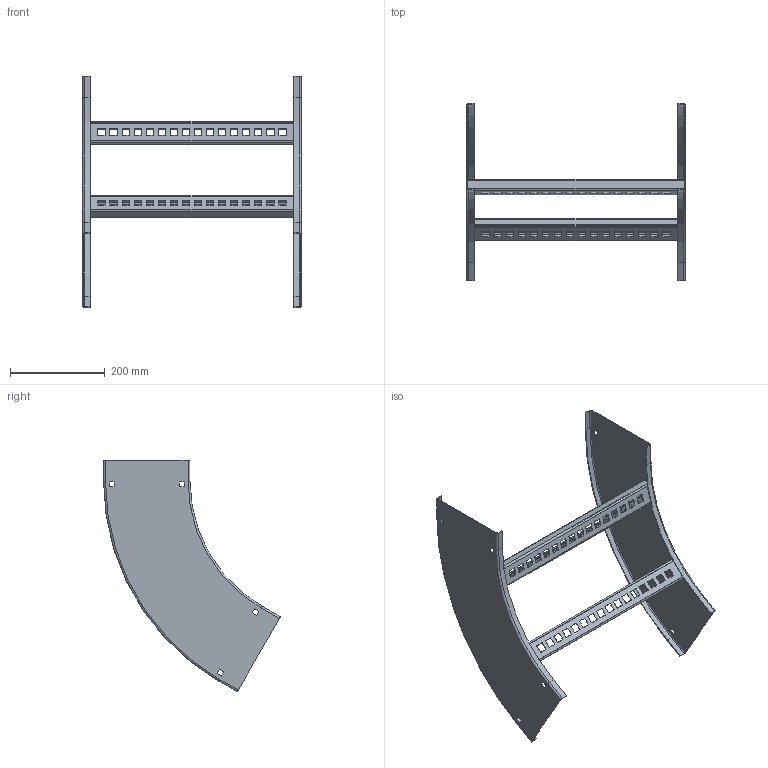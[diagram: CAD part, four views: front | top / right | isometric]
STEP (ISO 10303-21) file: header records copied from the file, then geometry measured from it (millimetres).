
FILE_DESCRIPTION((''),'2;1');
FILE_NAME('AUF718LVO6012_ASM','2010-02-01T',('erouzier'),(''),'PRO/ENGINEER BY PARAMETRIC TECHNOLOGY CORPORATION, 2008510','PRO/ENGINEER BY PARAMETRIC TECHNOLOGY CORPORATION, 2008510','');
FILE_SCHEMA(('CONFIG_CONTROL_DESIGN'));
Length unit declared in the file: inch
Products named in the file (3): CDS001419_7_60_12; CDS002159L18-P; AUF718LVO6012_ASM
Assembly tree (4 placements, depth 2):
  AUF718LVO6012_ASM
    CDS001419_7_60_12  x2
    CDS002159L18-P  x2
Bounding box: 461.31 x 373.32 x 488.62 mm (x, y, z)
Volume: 545963.6 mm3; surface area: 625163.7 mm2
Topology: 4 solids, 4 shells, 432 faces, 1208 edges, 784 vertices
Faces by surface type: plane 250, cylinder 174, torus 8
Entity records: 7120 total; most frequent: DIRECTION 1228, CARTESIAN_POINT 1219, ORIENTED_EDGE 1208, EDGE_CURVE 604, VECTOR 426, LINE 426, AXIS2_PLACEMENT_3D 401, VERTEX_POINT 392
